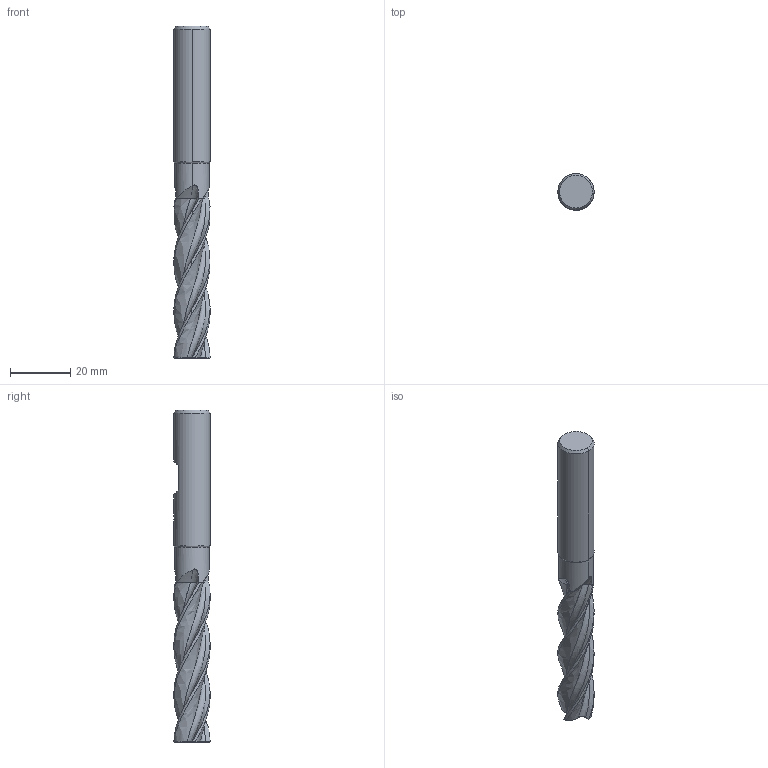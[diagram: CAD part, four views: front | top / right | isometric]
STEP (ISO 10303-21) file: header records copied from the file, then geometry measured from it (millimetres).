
FILE_DESCRIPTION(('no description'),'unknown implementation level');
FILE_NAME('solidXVlbd_7HKVAocNCIdKJkGjNQwvg_1.STP',' ',('CIMSOURCE GmbH'),('CADClick - KiM GmbH - www.kimweb.de'),'unknown preprocess','ACIS','unknown authorization');
FILE_SCHEMA(('automotive_design'));
Length unit declared in the file: millimetre
Products named in the file (2): NOCUT; CUT
Bounding box: 12 x 12 x 110 mm (x, y, z)
Volume: 9404.2 mm3; surface area: 6451.3 mm2
Topology: 2 solids, 2 shells, 131 faces, 372 edges, 244 vertices
Faces by surface type: bspline 48, cone 28, plane 27, cylinder 16, revolution 12
Entity records: 26166 total; most frequent: CARTESIAN_POINT 19087, STYLED_ITEM 749, PRESENTATION_STYLE_ASSIGNMENT 749, COLOUR_RGB 749, ORIENTED_EDGE 744, DIRECTION 402, EDGE_CURVE 372, CURVE_STYLE 372
